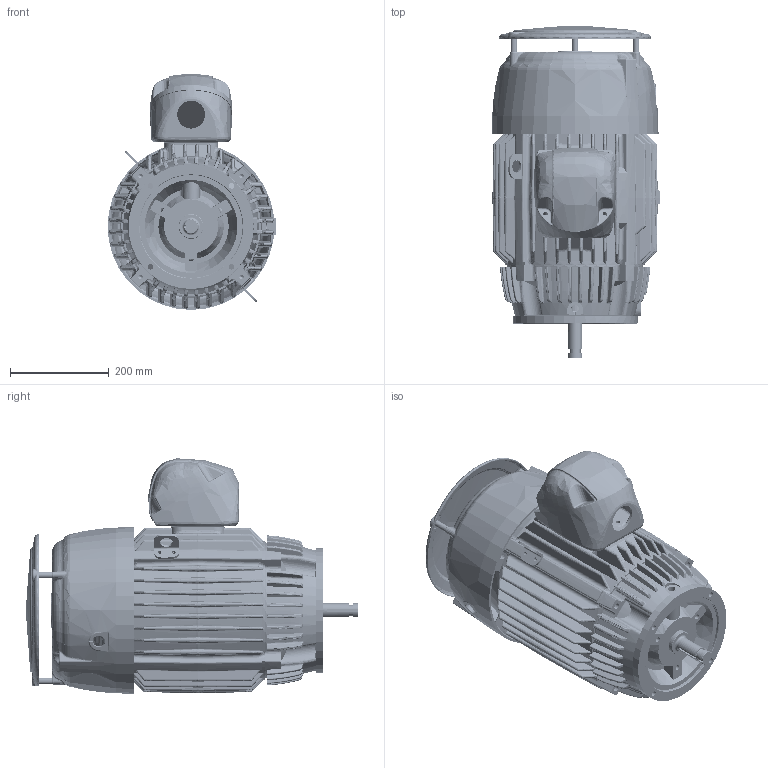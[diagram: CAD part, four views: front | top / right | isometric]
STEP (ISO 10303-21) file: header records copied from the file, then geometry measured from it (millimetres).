
FILE_DESCRIPTION((''),'2;1');
FILE_NAME('250HP_TCVS_ASM','2019-12-17T08:55:27',('EMD2341'),('Nidec Motor Corporation'),'CREO PARAMETRIC BY PTC INC, 2018300','CREO PARAMETRIC BY PTC INC, 2018300','');
FILE_SCHEMA(('CONFIG_CONTROL_DESIGN'));
Length unit declared in the file: inch
Products named in the file (11): 0929918-006; 0644261-001; 2022431; 0170274; 0075989-OBC; 0169739-SPA; 2020253; 2005476; 0724972; 2031046; 250HP_TCVS_ASM
Assembly tree (13 placements, depth 2):
  250HP_TCVS_ASM
    0929918-006
    0644261-001
    2022431
    0170274
    0075989-OBC
    0169739-SPA  x3
    2020253
    2005476  x2
    0724972
    2031046
Bounding box: 341.76 x 672.21 x 477.51 mm (x, y, z)
Volume: 12765640.8 mm3; surface area: 2623213.9 mm2
Topology: 13 solids, 47 shells, 4329 faces, 10752 edges, 6451 vertices
Faces by surface type: bspline 1848, plane 840, cylinder 667, torus 432, cone 428, sphere 106, extrusion 8
Entity records: 209306 total; most frequent: CARTESIAN_POINT 121937, ORIENTED_EDGE 21084, DIRECTION 13906, EDGE_CURVE 10610, VERTEX_POINT 6399, AXIS2_PLACEMENT_3D 5835, B_SPLINE_CURVE_WITH_KNOTS 5026, EDGE_LOOP 4547
